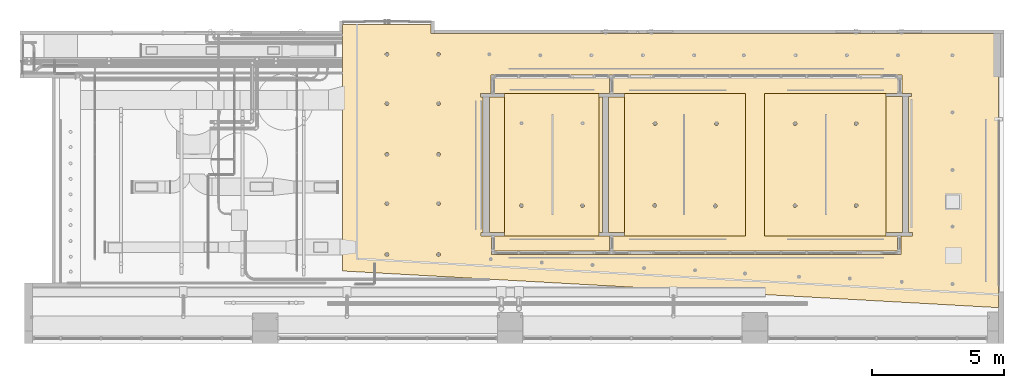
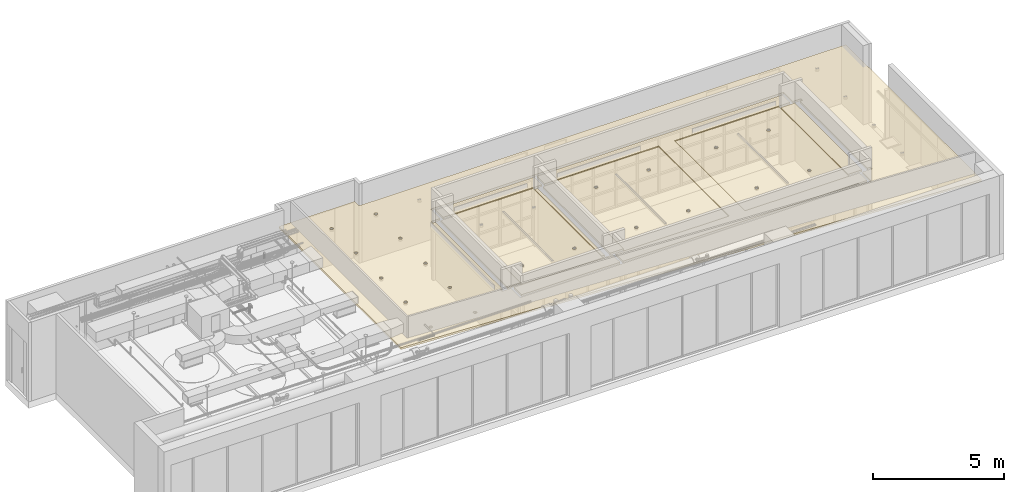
# One storey, part 22 of 108: 6 coverings.
"""IFC4 building model written with IfcOpenShell, lengths in feet."""

from ifc_helpers import new_model, entity, si_unit, converted_unit, derived_unit, direction, frame, frame_2d, origin, origin_2d_with_axis, place, context, subcontext, project, spatial, polyline, circle_curve, parameter, trimmed, segment, composite_curve, rectangle, outline, extrude, material, layer, layer_set, layer_usage, type_object, element, save


model = new_model("IFC4")

# Units and contexts
model_context = context("Model", 3, precision=0.0001, world=origin(), true_north=direction((6.12303176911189e-17, 1.0)))
body_context = subcontext(model_context, "Body", "Model", "MODEL_VIEW")
ifc_project = project(units=[converted_unit("LENGTHUNIT", "FOOT", entity("IfcRatioMeasure", 0.3048), si_unit("LENGTHUNIT", "METRE"), dimensions=[1, 0, 0, 0, 0, 0, 0]), converted_unit("AREAUNIT", "SQUARE FOOT", entity("IfcRatioMeasure", 0.09290304), si_unit("AREAUNIT", "SQUARE_METRE"), dimensions=[2, 0, 0, 0, 0, 0, 0]), converted_unit("VOLUMEUNIT", "CUBIC FOOT", entity("IfcRatioMeasure", 0.028316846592), si_unit("VOLUMEUNIT", "CUBIC_METRE"), dimensions=[3, 0, 0, 0, 0, 0, 0]), converted_unit("PLANEANGLEUNIT", "DEGREE", entity("IfcRatioMeasure", 0.0174532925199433), si_unit("PLANEANGLEUNIT", "RADIAN"), dimensions=[0, 0, 0, 0, 0, 0, 0]), si_unit("MASSUNIT", "GRAM", prefix="KILO"), derived_unit("MASSDENSITYUNIT", [(si_unit("MASSUNIT", "GRAM", prefix="KILO"), 1), (si_unit("LENGTHUNIT", "METRE"), -3)]), si_unit("TIMEUNIT", "SECOND"), si_unit("FREQUENCYUNIT", "HERTZ"), si_unit("THERMODYNAMICTEMPERATUREUNIT", "DEGREE_CELSIUS"), derived_unit("THERMALTRANSMITTANCEUNIT", [(si_unit("MASSUNIT", "GRAM", prefix="KILO"), 1), (si_unit("THERMODYNAMICTEMPERATUREUNIT", "KELVIN"), -1), (si_unit("TIMEUNIT", "SECOND"), -3)]), derived_unit("VOLUMETRICFLOWRATEUNIT", [(si_unit("LENGTHUNIT", "METRE"), 3), (si_unit("TIMEUNIT", "SECOND"), -1)]), si_unit("ELECTRICCURRENTUNIT", "AMPERE"), si_unit("ELECTRICVOLTAGEUNIT", "VOLT"), si_unit("POWERUNIT", "WATT"), si_unit("FORCEUNIT", "NEWTON"), si_unit("ILLUMINANCEUNIT", "LUX"), si_unit("LUMINOUSFLUXUNIT", "LUMEN"), si_unit("LUMINOUSINTENSITYUNIT", "CANDELA"), derived_unit("USERDEFINED", [(si_unit("MASSUNIT", "GRAM", prefix="KILO"), -1), (si_unit("LENGTHUNIT", "METRE"), -2), (si_unit("TIMEUNIT", "SECOND"), 3), (si_unit("LUMINOUSFLUXUNIT", "LUMEN"), 1)]), derived_unit("LINEARVELOCITYUNIT", [(si_unit("LENGTHUNIT", "METRE"), 1), (si_unit("TIMEUNIT", "SECOND"), -1)]), si_unit("PRESSUREUNIT", "PASCAL"), derived_unit("USERDEFINED", [(si_unit("LENGTHUNIT", "METRE"), -2), (si_unit("MASSUNIT", "GRAM", prefix="KILO"), 1), (si_unit("TIMEUNIT", "SECOND"), -2)])], contexts=[model_context])

# Site, building, storey
site_placement = place(None, origin())
site = spatial("IfcSite", under=ifc_project, at=site_placement, Name="Default", CompositionType="ELEMENT")
building_placement = place(site_placement, origin())
building = spatial("IfcBuilding", under=site, at=building_placement, CompositionType="ELEMENT")
storey_placement = place(building_placement, frame((0.0, 0.0, 168.0)))
storey = spatial("IfcBuildingStorey", under=building, at=storey_placement, Name="Level 15", CompositionType="ELEMENT", Elevation=168.0)

# Coverings
ifc_material_1 = material(Name="Metal Stud Layer", Category="Metal")
ifc_layer_1 = layer(ifc_material_1, 0.302083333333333, Name="Metal Stud Layer", Category="Metal")
ifc_layer_set_1 = layer_set([ifc_layer_1], Name="Compound Ceiling:GWB on Mtl. Stud")
ifc_layer_usage_1 = layer_usage(ifc_layer_set_1, "AXIS3", "POSITIVE", 0.0)
covering_type_1 = type_object("IfcCoveringType", Name="Compound Ceiling:GWB on Mtl. Stud", PredefinedType="CEILING")
covering_1_placement = place(storey_placement, frame((-20.0881733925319, -18.6824357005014, 8.49999999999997)))
element("IfcCovering", 1, at=covering_1_placement, inside=storey, type_object=covering_type_1, material=ifc_layer_usage_1, Name="Compound Ceiling:GWB on Mtl. Stud", ObjectType="Compound Ceiling:GWB on Mtl. Stud", PredefinedType="CEILING", context=body_context, shape_type="SweptSolid", body=[
    extrude(outline(polyline([(10.2038911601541, 19.8111647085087), (11.3199165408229, 19.8111647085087), (11.3199165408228, 30.7449815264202), (-19.2516706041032, 30.7449815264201), (-23.7959447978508, -50.5561462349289), (10.2038911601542, -50.5561462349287), (10.2038911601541, 19.8111647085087)]), holes=[composite_curve([segment(trimmed(circle_curve(frame_2d((7.61022318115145, 25.2638996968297), x_axis=(0.0, 1.0)), 0.229658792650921), [parameter(0.0)], [parameter(180.0)], True, "PARAMETER"), False, "CONTINUOUS"), segment(trimmed(circle_curve(frame_2d((7.61022318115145, 25.2638996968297), x_axis=(0.0, 1.0)), 0.229658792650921), [parameter(179.999999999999)], [parameter(359.999999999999)], True, "PARAMETER"), False, "CONTINUOUS")], self_intersect=False), composite_curve([segment(trimmed(circle_curve(frame_2d((1.49801845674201, 25.2638996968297), x_axis=(0.0, 1.0)), 0.229658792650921), [parameter(4.57999874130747e-13)], [parameter(180.0)], True, "PARAMETER"), False, "CONTINUOUS"), segment(trimmed(circle_curve(frame_2d((1.49801845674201, 25.2638996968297), x_axis=(0.0, 1.0)), 0.229658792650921), [parameter(180.0)], [parameter(360.0)], True, "PARAMETER"), False, "CONTINUOUS")], self_intersect=False), composite_curve([segment(trimmed(circle_curve(frame_2d((-4.79135162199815, 25.2638996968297), x_axis=(0.0, 1.0)), 0.229658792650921), [parameter(0.0)], [parameter(180.0)], True, "PARAMETER"), False, "CONTINUOUS"), segment(trimmed(circle_curve(frame_2d((-4.79135162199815, 25.2638996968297), x_axis=(0.0, 1.0)), 0.229658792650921), [parameter(180.0)], [parameter(359.999999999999)], True, "PARAMETER"), False, "CONTINUOUS")], self_intersect=False), composite_curve([segment(trimmed(circle_curve(frame_2d((-10.8937138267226, 25.2638996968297), x_axis=(0.0, 1.0)), 0.229658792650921), [parameter(4.57999874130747e-13)], [parameter(180.0)], True, "PARAMETER"), False, "CONTINUOUS"), segment(trimmed(circle_curve(frame_2d((-10.8937138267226, 25.2638996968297), x_axis=(0.0, 1.0)), 0.229658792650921), [parameter(180.0)], [parameter(360.0)], True, "PARAMETER"), False, "CONTINUOUS")], self_intersect=False), composite_curve([segment(trimmed(circle_curve(frame_2d((-17.2021127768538, 25.2638996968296), x_axis=(0.0, 1.0)), 0.229658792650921), [parameter(0.0)], [parameter(180.0)], True, "PARAMETER"), False, "CONTINUOUS"), segment(trimmed(circle_curve(frame_2d((-17.2021127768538, 25.2638996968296), x_axis=(0.0, 1.0)), 0.229658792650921), [parameter(179.999999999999)], [parameter(359.999999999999)], True, "PARAMETER"), False, "CONTINUOUS")], self_intersect=False), composite_curve([segment(trimmed(circle_curve(frame_2d((7.6102231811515, 18.862665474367), x_axis=(0.0, 1.0)), 0.229658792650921), [parameter(0.0)], [parameter(180.0)], True, "PARAMETER"), False, "CONTINUOUS"), segment(trimmed(circle_curve(frame_2d((7.6102231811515, 18.862665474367), x_axis=(0.0, 1.0)), 0.229658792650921), [parameter(179.999999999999)], [parameter(359.999999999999)], True, "PARAMETER"), False, "CONTINUOUS")], self_intersect=False), composite_curve([segment(trimmed(circle_curve(frame_2d((1.49801845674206, 18.862665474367), x_axis=(0.0, 1.0)), 0.229658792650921), [parameter(0.0)], [parameter(180.0)], True, "PARAMETER"), False, "CONTINUOUS"), segment(trimmed(circle_curve(frame_2d((1.49801845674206, 18.862665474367), x_axis=(0.0, 1.0)), 0.229658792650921), [parameter(179.999999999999)], [parameter(359.999999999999)], True, "PARAMETER"), False, "CONTINUOUS")], self_intersect=False), composite_curve([segment(trimmed(circle_curve(frame_2d((-4.7913516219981, 18.8626654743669), x_axis=(0.0, 1.0)), 0.229658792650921), [parameter(0.0)], [parameter(180.0)], True, "PARAMETER"), False, "CONTINUOUS"), segment(trimmed(circle_curve(frame_2d((-4.7913516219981, 18.8626654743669), x_axis=(0.0, 1.0)), 0.229658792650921), [parameter(180.0)], [parameter(359.999999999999)], True, "PARAMETER"), False, "CONTINUOUS")], self_intersect=False), composite_curve([segment(trimmed(circle_curve(frame_2d((-10.8937138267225, 18.8626654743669), x_axis=(0.0, 1.0)), 0.229658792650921), [parameter(0.0)], [parameter(180.0)], True, "PARAMETER"), False, "CONTINUOUS"), segment(trimmed(circle_curve(frame_2d((-10.8937138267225, 18.8626654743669), x_axis=(0.0, 1.0)), 0.229658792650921), [parameter(179.999999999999)], [parameter(359.999999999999)], True, "PARAMETER"), False, "CONTINUOUS")], self_intersect=False), composite_curve([segment(trimmed(circle_curve(frame_2d((-17.2021127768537, 18.8626654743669), x_axis=(0.0, 1.0)), 0.229658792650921), [parameter(360.0)], [parameter(180.0)], True, "PARAMETER"), False, "CONTINUOUS"), segment(trimmed(circle_curve(frame_2d((-17.2021127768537, 18.8626654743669), x_axis=(0.0, 1.0)), 0.229658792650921), [parameter(179.999999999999)], [parameter(359.999999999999)], True, "PARAMETER"), False, "CONTINUOUS")], self_intersect=False), polyline([(5.06830206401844, 12.3927188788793), (5.06830206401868, -38.6072811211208), (2.7696720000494, -38.6072811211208), (2.7696720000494, -39.7734044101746), (2.35300533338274, -39.7734044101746), (2.35300533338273, -39.4087221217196), (-14.4734680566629, -39.4087221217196), (-14.4734680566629, -39.8604944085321), (-14.8901347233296, -39.8604944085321), (-14.8901347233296, -38.4317271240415), (-17.2021127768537, -38.4317271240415), (-17.2021127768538, 12.3182728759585), (-14.8897768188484, 12.3182728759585), (-14.8897768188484, 13.6267605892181), (-14.4731101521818, 13.6267605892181), (-14.4731101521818, 13.3278760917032), (2.3054738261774, 13.3278760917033), (2.3054738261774, 13.68204275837), (2.72214049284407, 13.68204275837), (2.72214049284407, 12.3927188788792), (5.06830206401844, 12.3927188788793)])]), frame((30.7449815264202, 23.7959447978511, 0.0), z_axis=(0.0, 0.0, 1.0), x_axis=(0.0, 1.0, 0.0)), (0.0, 0.0, 1.0), 0.302083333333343),
])
ifc_material_2 = material(Name="Default", Category="Miscellaneous")
ifc_layer_2 = layer(ifc_material_2, 0.135416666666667, Name="Default", Category="Miscellaneous")
ifc_material_3 = material(Name="Acoustic Ceiling Tile 24 x 24", Category="Generic")
ifc_layer_3 = layer(ifc_material_3, 0.0520833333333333, Name="Acoustic Ceiling Tile 24 x 24", Category="Generic")
ifc_layer_set_2 = layer_set([ifc_layer_2, ifc_layer_3], Name="Compound Ceiling:30\" x 30\" ACT System")
ifc_layer_usage_2 = layer_usage(ifc_layer_set_2, "AXIS3", "POSITIVE", 0.0)
covering_type_2 = type_object("IfcCoveringType", Name="Compound Ceiling:30\" x 30\" ACT System", PredefinedType="CEILING")
covering_2_placement = place(storey_placement, frame((-0.0252346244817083, -9.77626772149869, 8.5)))
element("IfcCovering", 2, at=covering_2_placement, inside=storey, type_object=covering_type_2, material=ifc_layer_usage_2, Name="Compound Ceiling:30\" x 30\" ACT System", ObjectType="Compound Ceiling:30\" x 30\" ACT System", PredefinedType="CEILING", context=body_context, shape_type="SweptSolid", body=[
    extrude(outline(polyline([(-8.81645734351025, -5.85703741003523), (8.81645734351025, -5.85703741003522), (8.81645734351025, 5.85703741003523), (-8.81645734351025, 5.85703741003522), (-8.81645734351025, -5.85703741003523)]), holes=[composite_curve([segment(trimmed(circle_curve(frame_2d((5.08286154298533, -3.77222768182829), x_axis=(0.0, -1.0)), 0.229658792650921), [parameter(4.57999874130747e-13)], [parameter(180.0)], True, "PARAMETER"), False, "CONTINUOUS"), segment(trimmed(circle_curve(frame_2d((5.08286154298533, -3.77222768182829), x_axis=(0.0, -1.0)), 0.229658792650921), [parameter(180.0)], [parameter(360.0)], True, "PARAMETER"), False, "CONTINUOUS")], self_intersect=False), composite_curve([segment(trimmed(circle_curve(frame_2d((5.08286154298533, 3.80651247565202), x_axis=(0.0, -1.0)), 0.229658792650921), [parameter(4.57999874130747e-13)], [parameter(180.0)], True, "PARAMETER"), False, "CONTINUOUS"), segment(trimmed(circle_curve(frame_2d((5.08286154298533, 3.80651247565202), x_axis=(0.0, -1.0)), 0.229658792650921), [parameter(180.0)], [parameter(360.0)], True, "PARAMETER"), False, "CONTINUOUS")], self_intersect=False)]), frame((5.85703741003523, 8.81645734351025, 0.0), z_axis=(0.0, 0.0, 1.0), x_axis=(0.0, -1.0, 0.0)), (0.0, 0.0, 1.0), 0.1875),
])
ifc_layer_usage_3 = layer_usage(ifc_layer_set_2, "AXIS3", "POSITIVE", 0.0)
covering_type_3 = type_object("IfcCoveringType", Name="Compound Ceiling:30\" x 30\" ACT System", PredefinedType="CEILING")
covering_3_placement = place(storey_placement, frame((14.8212220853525, -9.77626772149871, 8.5)))
element("IfcCovering", 3, at=covering_3_placement, inside=storey, type_object=covering_type_3, material=ifc_layer_usage_3, Name="Compound Ceiling:30\" x 30\" ACT System", ObjectType="Compound Ceiling:30\" x 30\" ACT System", PredefinedType="CEILING", context=body_context, shape_type="SweptSolid", body=[
    extrude(outline(polyline([(-7.51353346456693, -8.81645734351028), (7.51353346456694, -8.81645734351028), (7.51353346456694, 8.81645734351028), (-7.51353346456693, 8.81645734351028), (-7.51353346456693, -8.81645734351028)]), holes=[composite_curve([segment(trimmed(circle_curve(frame_2d((-3.70693897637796, 5.08774213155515), x_axis=(-1.0, 0.0)), 0.229658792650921), [parameter(2.03555499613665e-13)], [parameter(180.0)], True, "PARAMETER"), False, "CONTINUOUS"), segment(trimmed(circle_curve(frame_2d((-3.70693897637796, 5.08774213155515), x_axis=(-1.0, 0.0)), 0.229658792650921), [parameter(180.0)], [parameter(359.999999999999)], True, "PARAMETER"), False, "CONTINUOUS")], self_intersect=False), composite_curve([segment(trimmed(circle_curve(frame_2d((3.90460958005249, 5.08774213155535), x_axis=(-1.0, 0.0)), 0.229658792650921), [parameter(2.03555499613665e-13)], [parameter(180.0)], True, "PARAMETER"), False, "CONTINUOUS"), segment(trimmed(circle_curve(frame_2d((3.90460958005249, 5.08774213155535), x_axis=(-1.0, 0.0)), 0.229658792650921), [parameter(180.0)], [parameter(359.999999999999)], True, "PARAMETER"), False, "CONTINUOUS")], self_intersect=False), composite_curve([segment(trimmed(circle_curve(frame_2d((-3.73974737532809, -5.05661482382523), x_axis=(-1.0, 0.0)), 0.229658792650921), [parameter(4.57999874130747e-13)], [parameter(180.0)], True, "PARAMETER"), False, "CONTINUOUS"), segment(trimmed(circle_curve(frame_2d((-3.73974737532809, -5.05661482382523), x_axis=(-1.0, 0.0)), 0.229658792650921), [parameter(180.0)], [parameter(360.0)], True, "PARAMETER"), False, "CONTINUOUS")], self_intersect=False), composite_curve([segment(trimmed(circle_curve(frame_2d((3.74056758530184, -5.11566994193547), x_axis=(-1.0, 0.0)), 0.229658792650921), [parameter(4.57999874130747e-13)], [parameter(180.0)], True, "PARAMETER"), False, "CONTINUOUS"), segment(trimmed(circle_curve(frame_2d((3.74056758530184, -5.11566994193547), x_axis=(-1.0, 0.0)), 0.229658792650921), [parameter(180.0)], [parameter(360.0)], True, "PARAMETER"), False, "CONTINUOUS")], self_intersect=False)]), frame((7.51353346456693, 8.81645734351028, 0.0)), (0.0, 0.0, 1.0), 0.1875),
])
ifc_layer_usage_4 = layer_usage(ifc_layer_set_2, "AXIS3", "POSITIVE", 0.0)
covering_type_4 = type_object("IfcCoveringType", Name="Compound Ceiling:30\" x 30\" ACT System", PredefinedType="CEILING")
covering_4_placement = place(storey_placement, frame((32.1627282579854, -9.77662562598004, 8.5)))
element("IfcCovering", 4, at=covering_4_placement, inside=storey, type_object=covering_type_4, material=ifc_layer_usage_4, Name="Compound Ceiling:30\" x 30\" ACT System", ObjectType="Compound Ceiling:30\" x 30\" ACT System", PredefinedType="CEILING", context=body_context, shape_type="SweptSolid", body=[
    extrude(outline(polyline([(-8.82990336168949, -7.5558125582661), (8.82990336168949, -7.5558125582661), (8.82990336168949, 7.5558125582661), (-8.82990336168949, 7.5558125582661), (-8.82990336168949, -7.5558125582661)]), holes=[composite_curve([segment(trimmed(circle_curve(frame_2d((5.09594965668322, -3.73508119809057), x_axis=(0.0, -1.0)), 0.229658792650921), [parameter(2.03555499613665e-13)], [parameter(180.0)], True, "PARAMETER"), False, "CONTINUOUS"), segment(trimmed(circle_curve(frame_2d((5.09594965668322, -3.73508119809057), x_axis=(0.0, -1.0)), 0.229658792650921), [parameter(180.0)], [parameter(359.999999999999)], True, "PARAMETER"), False, "CONTINUOUS")], self_intersect=False), composite_curve([segment(trimmed(circle_curve(frame_2d((5.09594965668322, 3.8436589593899), x_axis=(0.0, -1.0)), 0.229658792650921), [parameter(2.03555499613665e-13)], [parameter(180.0)], True, "PARAMETER"), False, "CONTINUOUS"), segment(trimmed(circle_curve(frame_2d((5.09594965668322, 3.8436589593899), x_axis=(0.0, -1.0)), 0.229658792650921), [parameter(180.0)], [parameter(359.999999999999)], True, "PARAMETER"), False, "CONTINUOUS")], self_intersect=False), composite_curve([segment(trimmed(circle_curve(frame_2d((-5.07465401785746, -3.73508119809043), x_axis=(0.0, -1.0)), 0.229658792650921), [parameter(2.03555499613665e-13)], [parameter(180.0)], True, "PARAMETER"), False, "CONTINUOUS"), segment(trimmed(circle_curve(frame_2d((-5.07465401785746, -3.73508119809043), x_axis=(0.0, -1.0)), 0.229658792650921), [parameter(180.0)], [parameter(359.999999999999)], True, "PARAMETER"), False, "CONTINUOUS")], self_intersect=False), composite_curve([segment(trimmed(circle_curve(frame_2d((-5.07465401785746, 3.84365895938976), x_axis=(0.0, -1.0)), 0.229658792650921), [parameter(2.03555499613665e-13)], [parameter(180.0)], True, "PARAMETER"), False, "CONTINUOUS"), segment(trimmed(circle_curve(frame_2d((-5.07465401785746, 3.84365895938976), x_axis=(0.0, -1.0)), 0.229658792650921), [parameter(180.0)], [parameter(359.999999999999)], True, "PARAMETER"), False, "CONTINUOUS")], self_intersect=False)]), frame((7.5558125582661, 8.82990336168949, 0.0), z_axis=(0.0, 0.0, 1.0), x_axis=(0.0, -1.0, 0.0)), (0.0, 0.0, 1.0), 0.1875),
])
ifc_layer_usage_5 = layer_usage(ifc_layer_set_1, "AXIS3", "POSITIVE", 0.0)
covering_type_5 = type_object("IfcCoveringType", Name="Compound Ceiling:GWB on Mtl. Stud", PredefinedType="CEILING")
covering_5_placement = place(storey_placement, frame((-1.92106795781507, -11.6719370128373, 8.49999999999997)))
element("IfcCovering", 5, at=covering_5_placement, inside=storey, type_object=covering_type_5, material=ifc_layer_usage_5, Name="Compound Ceiling:GWB on Mtl. Stud", ObjectType="Compound Ceiling:GWB on Mtl. Stud", PredefinedType="CEILING", context=body_context, shape_type="SweptSolid", body=[
    extrude(rectangle(XDim=1.8958333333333, YDim=16.7785839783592, at=frame_2d((7.21644966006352e-15, 8.88178419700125e-16), x_axis=(1.0, 0.0))), frame((0.947916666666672, 10.7016279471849, 0.0)), (0.0, 0.0, 1.0), 0.302083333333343),
    extrude(rectangle(XDim=14.250168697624, YDim=1.89566929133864, at=frame_2d((-8.88178419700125e-16, -8.88178419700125e-16), x_axis=(1.0, 0.0))), frame((7.80135423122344, 0.947834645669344, 0.0), z_axis=(0.0, 0.0, 1.0), x_axis=(-1.0, 0.0, 0.0)), (0.0, 0.0, 1.0), 0.302083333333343),
    extrude(rectangle(XDim=16.7995813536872, YDim=0.441530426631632, at=frame_2d((0.0, 7.99360577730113e-15), x_axis=(1.0, 0.0))), frame((13.8306733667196, 10.7121266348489, 0.0), z_axis=(0.0, 0.0, 1.0), x_axis=(0.0, 1.0, 0.0)), (0.0, 0.0, 1.0), 0.302083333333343),
    extrude(rectangle(XDim=14.2766799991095, YDim=1.90849752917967, at=frame_2d((0.0, -1.77635683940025e-15), x_axis=(1.0, 0.0))), frame((7.74016387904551, 20.482832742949, 0.0), z_axis=(0.0, 0.0, 1.0), x_axis=(-1.0, 0.0, 0.0)), (0.0, 0.0, 1.0), 0.302083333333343),
])
ifc_layer_usage_6 = layer_usage(ifc_layer_set_1, "AXIS3", "POSITIVE", 0.0)
covering_type_6 = type_object("IfcCoveringType", Name="Compound Ceiling:GWB on Mtl. Stud", PredefinedType="CEILING")
covering_6_placement = place(storey_placement, frame((12.8803706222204, -11.6719370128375, 8.49999999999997)))
element("IfcCovering", 6, at=covering_6_placement, inside=storey, type_object=covering_type_6, material=ifc_layer_usage_6, Name="Compound Ceiling:GWB on Mtl. Stud", ObjectType="Compound Ceiling:GWB on Mtl. Stud", PredefinedType="CEILING", context=body_context, shape_type="SweptSolid", body=[
    extrude(rectangle(XDim=1.94085146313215, YDim=16.7995813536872, at=frame_2d((-7.105427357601e-15, 0.0), x_axis=(1.0, 0.0))), frame((0.970425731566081, 10.712126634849, 0.0)), (0.0, 0.0, 1.0), 0.302083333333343),
    extrude(rectangle(XDim=2.04117688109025, YDim=16.8264733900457, at=origin_2d_with_axis()), frame((35.4145711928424, 10.7252147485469, 0.0)), (0.0, 0.0, 1.0), 0.302083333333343),
    extrude(outline(polyline([(8.82295808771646, -17.6323707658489), (10.7186273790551, -17.6323707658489), (10.7186273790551, 17.6174605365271), (8.82331599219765, 17.6174605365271), (8.82331599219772, 1.10832020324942), (-8.83649073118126, 1.10832020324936), (-8.83649073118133, 17.7930145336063), (-10.7184541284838, 17.7930145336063), (-10.7184541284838, -17.6803054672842), (-8.80995659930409, -17.6803054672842), (-8.80995659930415, -1.20611904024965), (8.8229580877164, -1.20611904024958), (8.82295808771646, -17.6323707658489)])), frame((18.1740374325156, 10.7186273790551, 0.0), z_axis=(0.0, 0.0, 1.0), x_axis=(0.0, -1.0, 0.0)), (0.0, 0.0, 1.0), 0.302083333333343),
])

save(model, "model.ifc")
